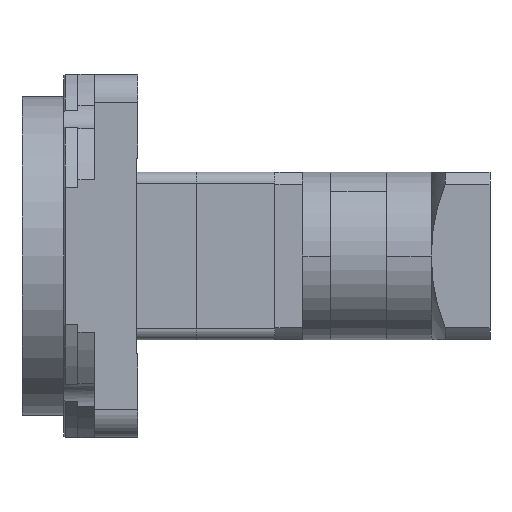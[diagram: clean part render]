
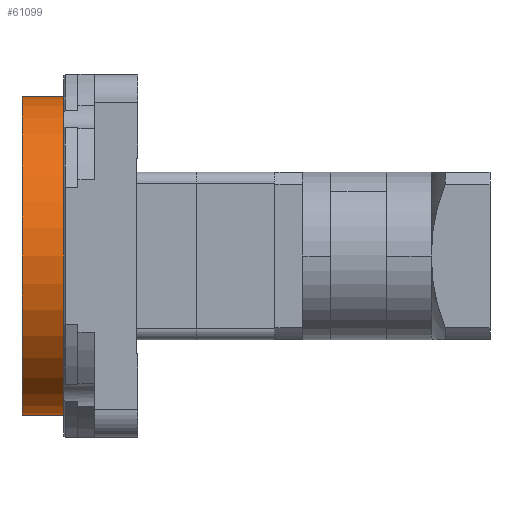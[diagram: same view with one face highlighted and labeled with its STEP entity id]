
A CAD part, left-side view. The second image highlights one B-rep face of the part: STEP entity #61099.
In plain terms, the highlighted cylindrical face has radius 57 mm (diameter 114 mm), a partial arc.
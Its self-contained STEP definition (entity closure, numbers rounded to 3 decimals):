
#55755 = PLANE('',#55756);
#55756 = AXIS2_PLACEMENT_3D('',#55757,#55758,#55759);
#55757 = CARTESIAN_POINT('',(-90.05,4.99,
    159.4));
#55758 = DIRECTION('',(0.,1.,0.));
#55759 = DIRECTION('',(0.,-0.,1.));
#59813 = VERTEX_POINT('',#59814);
#59814 = CARTESIAN_POINT('',(-90.05,4.99,
    102.4));
#59815 = VERTEX_POINT('',#59816);
#59816 = CARTESIAN_POINT('',(-90.05,4.99,
    216.4));
#59835 = CYLINDRICAL_SURFACE('',#59836,57.);
#59836 = AXIS2_PLACEMENT_3D('',#59837,#59838,#59839);
#59837 = CARTESIAN_POINT('',(-90.05,20.09,
    159.4));
#59838 = DIRECTION('',(-0.,-1.,-0.));
#59839 = DIRECTION('',(0.,0.,-1.));
#59847 = EDGE_CURVE('',#59815,#59813,#59848,.T.);
#59848 = SURFACE_CURVE('',#59849,(#59854,#59865),.PCURVE_S1.);
#59849 = CIRCLE('',#59850,57.);
#59850 = AXIS2_PLACEMENT_3D('',#59851,#59852,#59853);
#59851 = CARTESIAN_POINT('',(-90.05,4.99,
    159.4));
#59852 = DIRECTION('',(0.,-1.,-0.));
#59853 = DIRECTION('',(0.,0.,-1.));
#59854 = PCURVE('',#55755,#59855);
#59855 = DEFINITIONAL_REPRESENTATION('',(#59856),#59864);
#59856 = ( BOUNDED_CURVE() B_SPLINE_CURVE(2,(#59857,#59858,#59859,#59860
    ,#59861,#59862,#59863),.UNSPECIFIED.,.T.,.F.) 
B_SPLINE_CURVE_WITH_KNOTS((1,2,2,2,2,1),(-2.094,0.,
    2.094,4.189,6.283,8.378),
.UNSPECIFIED.) CURVE() GEOMETRIC_REPRESENTATION_ITEM() 
RATIONAL_B_SPLINE_CURVE((1.,0.5,1.,0.5,1.,0.5,1.)) REPRESENTATION_ITEM(
  '') );
#59857 = CARTESIAN_POINT('',(-57.,0.));
#59858 = CARTESIAN_POINT('',(-57.,98.727));
#59859 = CARTESIAN_POINT('',(28.5,49.363));
#59860 = CARTESIAN_POINT('',(114.,0.));
#59861 = CARTESIAN_POINT('',(28.5,-49.363));
#59862 = CARTESIAN_POINT('',(-57.,-98.727));
#59863 = CARTESIAN_POINT('',(-57.,0.));
#59864 = ( GEOMETRIC_REPRESENTATION_CONTEXT(2) 
PARAMETRIC_REPRESENTATION_CONTEXT() REPRESENTATION_CONTEXT('2D SPACE',''
  ) );
#59865 = PCURVE('',#59866,#59871);
#59866 = CYLINDRICAL_SURFACE('',#59867,57.);
#59867 = AXIS2_PLACEMENT_3D('',#59868,#59869,#59870);
#59868 = CARTESIAN_POINT('',(-90.05,20.09,
    159.4));
#59869 = DIRECTION('',(-0.,-1.,-0.));
#59870 = DIRECTION('',(0.,0.,-1.));
#59871 = DEFINITIONAL_REPRESENTATION('',(#59872),#59876);
#59872 = LINE('',#59873,#59874);
#59873 = CARTESIAN_POINT('',(0.,15.1));
#59874 = VECTOR('',#59875,1.);
#59875 = DIRECTION('',(1.,0.));
#59876 = ( GEOMETRIC_REPRESENTATION_CONTEXT(2) 
PARAMETRIC_REPRESENTATION_CONTEXT() REPRESENTATION_CONTEXT('2D SPACE',''
  ) );
#61023 = VERTEX_POINT('',#61024);
#61024 = CARTESIAN_POINT('',(-90.05,20.09,
    102.4));
#61025 = VERTEX_POINT('',#61026);
#61026 = CARTESIAN_POINT('',(-90.05,20.09,
    216.4));
#61041 = PLANE('',#61042);
#61042 = AXIS2_PLACEMENT_3D('',#61043,#61044,#61045);
#61043 = CARTESIAN_POINT('',(-90.05,20.09,
    159.4));
#61044 = DIRECTION('',(0.,1.,0.));
#61045 = DIRECTION('',(0.,-0.,1.));
#61057 = EDGE_CURVE('',#61025,#59815,#61058,.T.);
#61058 = SURFACE_CURVE('',#61059,(#61063,#61070),.PCURVE_S1.);
#61059 = LINE('',#61060,#61061);
#61060 = CARTESIAN_POINT('',(-90.05,20.09,
    216.4));
#61061 = VECTOR('',#61062,1.);
#61062 = DIRECTION('',(-0.,-1.,-0.));
#61063 = PCURVE('',#59835,#61064);
#61064 = DEFINITIONAL_REPRESENTATION('',(#61065),#61069);
#61065 = LINE('',#61066,#61067);
#61066 = CARTESIAN_POINT('',(3.142,0.));
#61067 = VECTOR('',#61068,1.);
#61068 = DIRECTION('',(0.,1.));
#61069 = ( GEOMETRIC_REPRESENTATION_CONTEXT(2) 
PARAMETRIC_REPRESENTATION_CONTEXT() REPRESENTATION_CONTEXT('2D SPACE',''
  ) );
#61070 = PCURVE('',#59866,#61071);
#61071 = DEFINITIONAL_REPRESENTATION('',(#61072),#61076);
#61072 = LINE('',#61073,#61074);
#61073 = CARTESIAN_POINT('',(3.142,0.));
#61074 = VECTOR('',#61075,1.);
#61075 = DIRECTION('',(0.,1.));
#61076 = ( GEOMETRIC_REPRESENTATION_CONTEXT(2) 
PARAMETRIC_REPRESENTATION_CONTEXT() REPRESENTATION_CONTEXT('2D SPACE',''
  ) );
#61079 = EDGE_CURVE('',#61023,#59813,#61080,.T.);
#61080 = SURFACE_CURVE('',#61081,(#61085,#61092),.PCURVE_S1.);
#61081 = LINE('',#61082,#61083);
#61082 = CARTESIAN_POINT('',(-90.05,20.09,
    102.4));
#61083 = VECTOR('',#61084,1.);
#61084 = DIRECTION('',(-0.,-1.,-0.));
#61085 = PCURVE('',#59835,#61086);
#61086 = DEFINITIONAL_REPRESENTATION('',(#61087),#61091);
#61087 = LINE('',#61088,#61089);
#61088 = CARTESIAN_POINT('',(0.,0.));
#61089 = VECTOR('',#61090,1.);
#61090 = DIRECTION('',(0.,1.));
#61091 = ( GEOMETRIC_REPRESENTATION_CONTEXT(2) 
PARAMETRIC_REPRESENTATION_CONTEXT() REPRESENTATION_CONTEXT('2D SPACE',''
  ) );
#61092 = PCURVE('',#59866,#61093);
#61093 = DEFINITIONAL_REPRESENTATION('',(#61094),#61098);
#61094 = LINE('',#61095,#61096);
#61095 = CARTESIAN_POINT('',(6.283,0.));
#61096 = VECTOR('',#61097,1.);
#61097 = DIRECTION('',(0.,1.));
#61098 = ( GEOMETRIC_REPRESENTATION_CONTEXT(2) 
PARAMETRIC_REPRESENTATION_CONTEXT() REPRESENTATION_CONTEXT('2D SPACE',''
  ) );
#61099 = ADVANCED_FACE('',(#61100),#59866,.T.);
#61100 = FACE_BOUND('',#61101,.T.);
#61101 = EDGE_LOOP('',(#61102,#61103,#61129,#61130));
#61102 = ORIENTED_EDGE('',*,*,#61057,.F.);
#61103 = ORIENTED_EDGE('',*,*,#61104,.T.);
#61104 = EDGE_CURVE('',#61025,#61023,#61105,.T.);
#61105 = SURFACE_CURVE('',#61106,(#61111,#61118),.PCURVE_S1.);
#61106 = CIRCLE('',#61107,57.);
#61107 = AXIS2_PLACEMENT_3D('',#61108,#61109,#61110);
#61108 = CARTESIAN_POINT('',(-90.05,20.09,
    159.4));
#61109 = DIRECTION('',(0.,-1.,-0.));
#61110 = DIRECTION('',(0.,0.,-1.));
#61111 = PCURVE('',#59866,#61112);
#61112 = DEFINITIONAL_REPRESENTATION('',(#61113),#61117);
#61113 = LINE('',#61114,#61115);
#61114 = CARTESIAN_POINT('',(0.,0.));
#61115 = VECTOR('',#61116,1.);
#61116 = DIRECTION('',(1.,0.));
#61117 = ( GEOMETRIC_REPRESENTATION_CONTEXT(2) 
PARAMETRIC_REPRESENTATION_CONTEXT() REPRESENTATION_CONTEXT('2D SPACE',''
  ) );
#61118 = PCURVE('',#61041,#61119);
#61119 = DEFINITIONAL_REPRESENTATION('',(#61120),#61128);
#61120 = ( BOUNDED_CURVE() B_SPLINE_CURVE(2,(#61121,#61122,#61123,#61124
    ,#61125,#61126,#61127),.UNSPECIFIED.,.T.,.F.) 
B_SPLINE_CURVE_WITH_KNOTS((1,2,2,2,2,1),(-2.094,0.,
    2.094,4.189,6.283,8.378),
.UNSPECIFIED.) CURVE() GEOMETRIC_REPRESENTATION_ITEM() 
RATIONAL_B_SPLINE_CURVE((1.,0.5,1.,0.5,1.,0.5,1.)) REPRESENTATION_ITEM(
  '') );
#61121 = CARTESIAN_POINT('',(-57.,0.));
#61122 = CARTESIAN_POINT('',(-57.,98.727));
#61123 = CARTESIAN_POINT('',(28.5,49.363));
#61124 = CARTESIAN_POINT('',(114.,0.));
#61125 = CARTESIAN_POINT('',(28.5,-49.363));
#61126 = CARTESIAN_POINT('',(-57.,-98.727));
#61127 = CARTESIAN_POINT('',(-57.,0.));
#61128 = ( GEOMETRIC_REPRESENTATION_CONTEXT(2) 
PARAMETRIC_REPRESENTATION_CONTEXT() REPRESENTATION_CONTEXT('2D SPACE',''
  ) );
#61129 = ORIENTED_EDGE('',*,*,#61079,.T.);
#61130 = ORIENTED_EDGE('',*,*,#59847,.F.);
